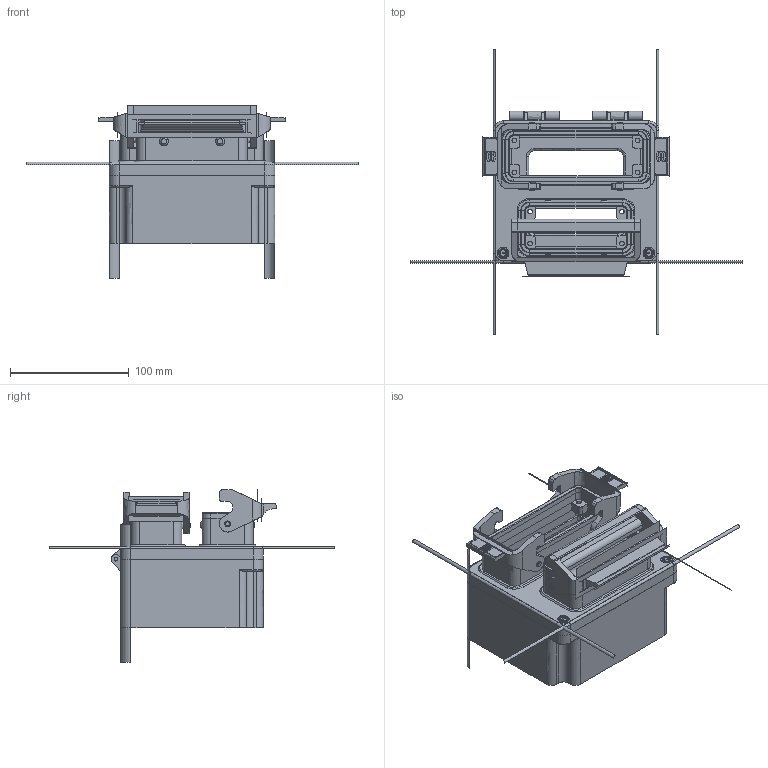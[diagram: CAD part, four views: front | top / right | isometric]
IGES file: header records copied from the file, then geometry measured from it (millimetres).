
Start section: Cimatron Iges convertor
Global section: file name: I:\k-box\cimatron\groesse_3\gr_3_24e_16e-ab.igs; native system: prt/Cimatron V13.10; preprocessor: Cimatron IGES (V5.3) Convertor V5.0.6.0; author: NONE; organization: NONE; date: 060821.193420; units: millimetre
Bounding box: 280.08 x 240.08 x 145.77 mm (x, y, z)
Surface area: 212160.1 mm2 (no closed solid volume)
Topology: 0 solids, 0 shells, 1447 faces, 7602 edges, 7801 vertices
Faces by surface type: bspline 1070, extrusion 245, revolution 132
